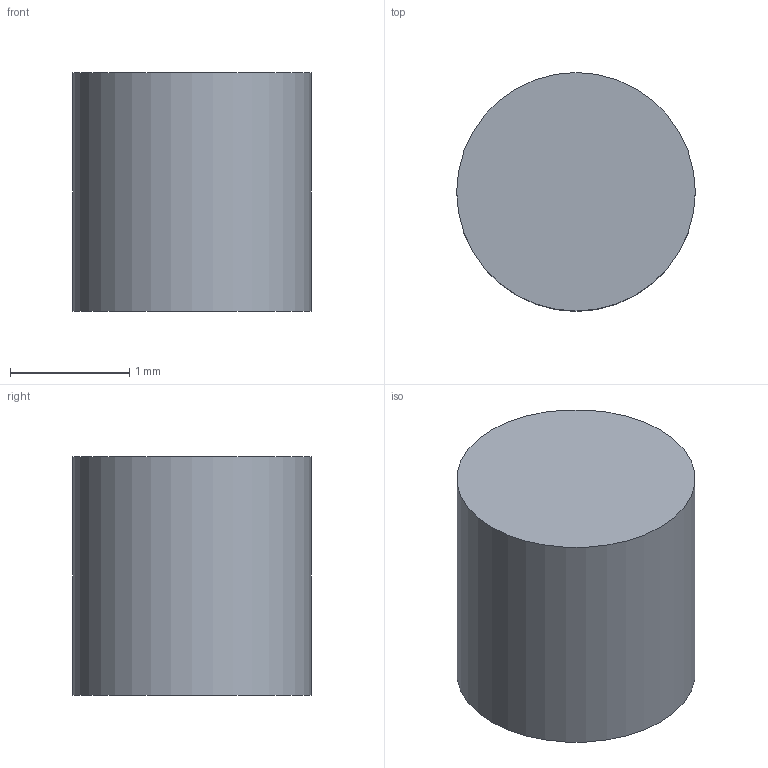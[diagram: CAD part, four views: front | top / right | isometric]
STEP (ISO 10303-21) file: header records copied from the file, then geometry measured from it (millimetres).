
FILE_DESCRIPTION(('BRL-CAD AP214 duplicate periodic seam fixture'),'2;1');
FILE_NAME('ap214_duplicate_periodic_seam.stp','2026-07-22T00:00:00',('BRL-CAD'),('BRL-CAD'),'','','');
FILE_SCHEMA(('AUTOMOTIVE_DESIGN { 1 0 10303 214 3 1 1 1 }'));
Length unit declared in the file: millimetre
Products named in the file (1): duplicate_periodic_seam
Bounding box: 2 x 2 x 2 mm (x, y, z)
Surface area: 18.8 mm2 (no closed solid volume)
Topology: 0 solids, 1 shells, 3 faces, 4 edges, 2 vertices
Faces by surface type: plane 2, cylinder 1
Full cylindrical faces by diameter (mm): 2 x1
Entity records: 62 total; most frequent: ORIENTED_EDGE 8, CARTESIAN_POINT 6, EDGE_CURVE 5, VERTEX_POINT 4, EDGE_LOOP 4, DIRECTION 3, AXIS2_PLACEMENT_3D 3, FACE_OUTER_BOUND 3
